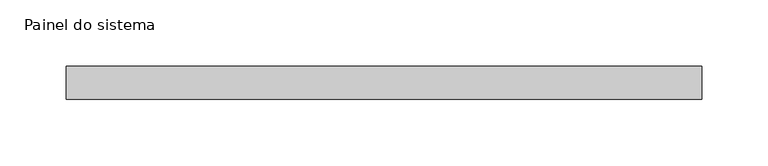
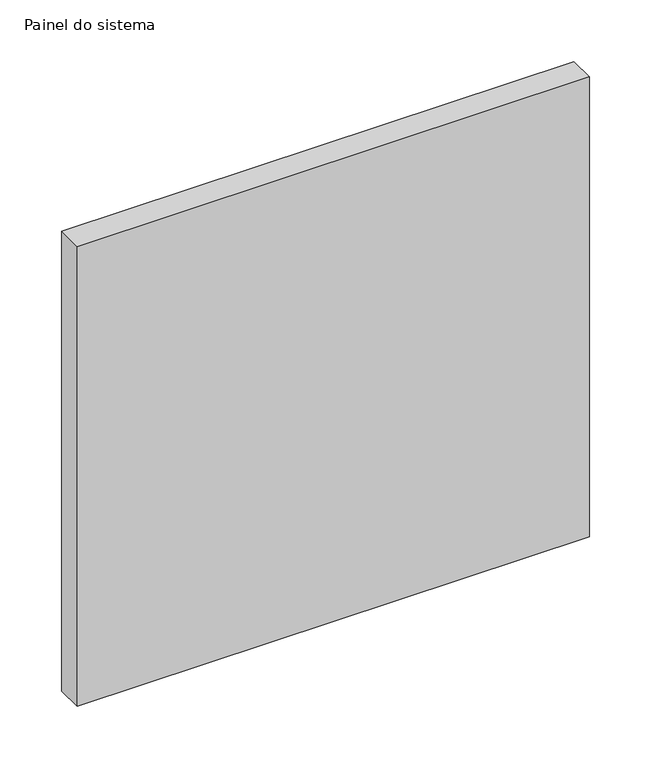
"""IFC4 building model written with IfcOpenShell, lengths in millimetres: plate geometry, Painel do sistema : Envidraçado."""

from ifc_helpers import new_model, si_unit, origin, origin_with_axes, place, context, project, spatial, polyline, outline, extrude, source, transform, mapped, element, save


def painel_do_sistema_0f60ed70(model_context):
    return source(origin(), model_context, "Body", "SweptSolid", [
        extrude(outline(polyline([(240.0, 24.5), (-240.0, 24.5), (-240.0, 49.5), (240.0, 49.5), (240.0, 24.5)])), origin_with_axes(), (0.0, 0.0, 1.0), 455.0),
    ])


if __name__ == "__main__":
    model = new_model("IFC4")
    model_context = context("Model", 3, world=origin())
    ifc_project = project(units=[si_unit("LENGTHUNIT", "METRE", prefix="MILLI")], contexts=[model_context])
    site = spatial("IfcSite", under=ifc_project)
    building = spatial("IfcBuilding", under=site)
    placement = place(None, origin())
    painel_do_sistema_shape = painel_do_sistema_0f60ed70(model_context)
    element("IfcPlate", 1, ObjectType="Painel do sistema : Envidraçado", at=placement, inside=building, context=model_context, shape_type="MappedRepresentation", body=[
        mapped(painel_do_sistema_shape, transform((0.0, 0.0, 0.0), x_axis=(1.0, 0.0, 0.0), y_axis=(0.0, 1.0, 0.0), z_axis=(0.0, 0.0, 1.0))),
    ])
    save(model, "model.ifc")
